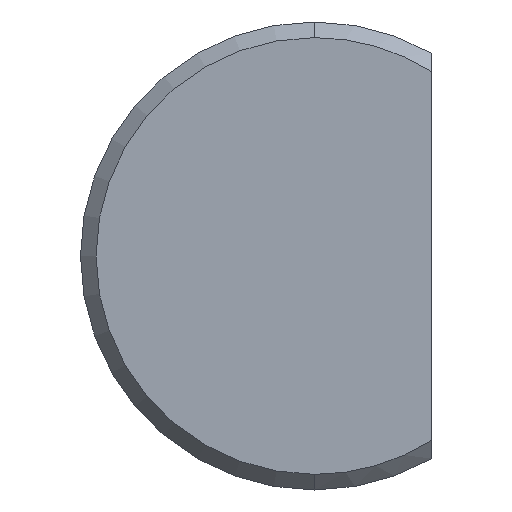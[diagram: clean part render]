
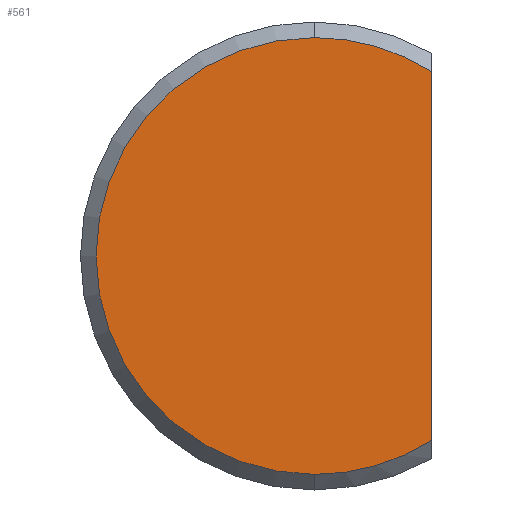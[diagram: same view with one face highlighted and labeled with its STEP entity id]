
A CAD part, front view. The second image highlights one B-rep face of the part: STEP entity #561.
In plain terms, the highlighted planar face has unit normal (0, -1, 0).
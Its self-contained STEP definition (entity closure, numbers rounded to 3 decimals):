
#19 = AXIS2_PLACEMENT_3D ( 'NONE', #228, #461, #189 ) ;
#23 = DIRECTION ( 'NONE',  ( 0., 0., -1. ) ) ;
#37 = CARTESIAN_POINT ( 'NONE',  ( 1.5, 0., -2.364 ) ) ;
#43 = ORIENTED_EDGE ( 'NONE', *, *, #303, .T. ) ;
#71 = EDGE_LOOP ( 'NONE', ( #452, #43, #510, #549 ) ) ;
#87 = DIRECTION ( 'NONE',  ( 0., 0., -1. ) ) ;
#130 = PLANE ( 'NONE',  #143 ) ;
#138 = VECTOR ( 'NONE', #385, 1000. ) ;
#143 = AXIS2_PLACEMENT_3D ( 'NONE', #414, #377, #87 ) ;
#154 = CARTESIAN_POINT ( 'NONE',  ( 0., 0., 0. ) ) ;
#184 = DIRECTION ( 'NONE',  ( 0., 0., -1. ) ) ;
#189 = DIRECTION ( 'NONE',  ( 0., 0., -1. ) ) ;
#209 = AXIS2_PLACEMENT_3D ( 'NONE', #225, #602, #184 ) ;
#224 = VERTEX_POINT ( 'NONE', #412 ) ;
#225 = CARTESIAN_POINT ( 'NONE',  ( 0., 0., 0. ) ) ;
#228 = CARTESIAN_POINT ( 'NONE',  ( 0., 0., 0. ) ) ;
#231 = AXIS2_PLACEMENT_3D ( 'NONE', #154, #245, #23 ) ;
#245 = DIRECTION ( 'NONE',  ( 0., -1., 0. ) ) ;
#271 = VERTEX_POINT ( 'NONE', #447 ) ;
#303 = EDGE_CURVE ( 'NONE', #309, #271, #435, .T. ) ;
#309 = VERTEX_POINT ( 'NONE', #568 ) ;
#327 = EDGE_CURVE ( 'NONE', #517, #224, #393, .T. ) ;
#345 = CARTESIAN_POINT ( 'NONE',  ( 1.5, 0., -2.598 ) ) ;
#350 = CIRCLE ( 'NONE', #19, 2.8 ) ;
#377 = DIRECTION ( 'NONE',  ( 0., -1., 0. ) ) ;
#378 = CIRCLE ( 'NONE', #209, 2.8 ) ;
#385 = DIRECTION ( 'NONE',  ( 0., 0., 1. ) ) ;
#393 = LINE ( 'NONE', #345, #138 ) ;
#412 = CARTESIAN_POINT ( 'NONE',  ( 1.5, 0., 2.364 ) ) ;
#414 = CARTESIAN_POINT ( 'NONE',  ( 0., 0., 0. ) ) ;
#435 = CIRCLE ( 'NONE', #231, 2.8 ) ;
#447 = CARTESIAN_POINT ( 'NONE',  ( 0., 0., -2.8 ) ) ;
#452 = ORIENTED_EDGE ( 'NONE', *, *, #505, .T. ) ;
#461 = DIRECTION ( 'NONE',  ( 0., -1., 0. ) ) ;
#505 = EDGE_CURVE ( 'NONE', #224, #309, #378, .T. ) ;
#510 = ORIENTED_EDGE ( 'NONE', *, *, #570, .T. ) ;
#511 = FACE_OUTER_BOUND ( 'NONE', #71, .T. ) ;
#517 = VERTEX_POINT ( 'NONE', #37 ) ;
#549 = ORIENTED_EDGE ( 'NONE', *, *, #327, .T. ) ;
#561 = ADVANCED_FACE ( 'NONE', ( #511 ), #130, .T. ) ;
#568 = CARTESIAN_POINT ( 'NONE',  ( 0., 0., 2.8 ) ) ;
#570 = EDGE_CURVE ( 'NONE', #271, #517, #350, .T. ) ;
#602 = DIRECTION ( 'NONE',  ( 0., -1., 0. ) ) ;
